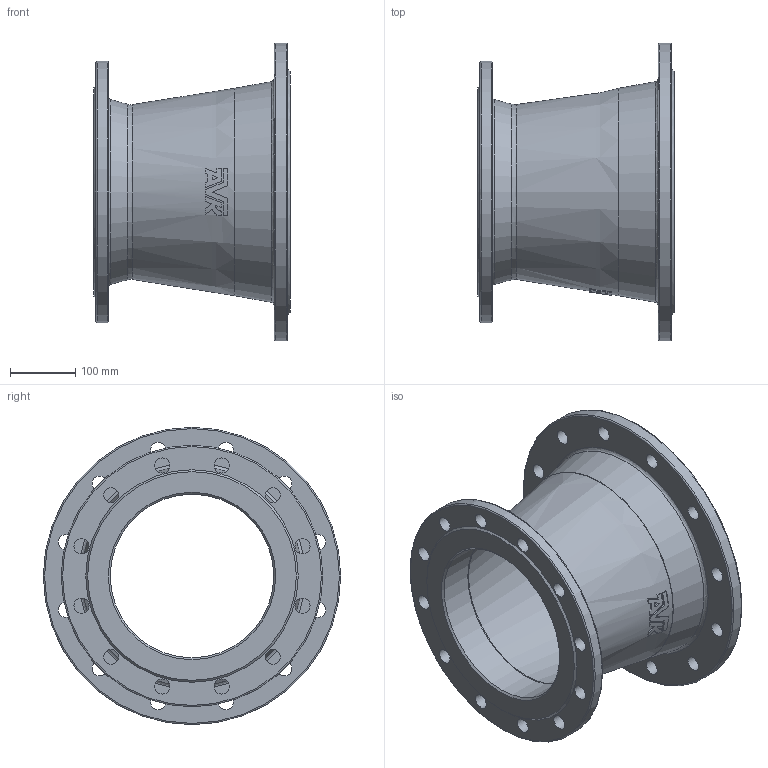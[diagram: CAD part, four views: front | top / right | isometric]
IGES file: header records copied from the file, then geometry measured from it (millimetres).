
Start section: SolidWorks IGES file using analytic representation for surfaces
Global section: file name: \\avksan2\techshare\PBM outline export from Enovia\O_712_2210_DN300_DN250_0X_REV01.igs; native system: SolidWorks 2022; preprocessor: SolidWorks 2022; author: pbm; date: 240808.075436; units: millimetre
Bounding box: 300 x 455 x 455 mm (x, y, z)
Surface area: 868775.4 mm2 (no closed solid volume)
Topology: 0 solids, 0 shells, 93 faces, 502 edges, 456 vertices
Faces by surface type: revolution 52, bspline 41
